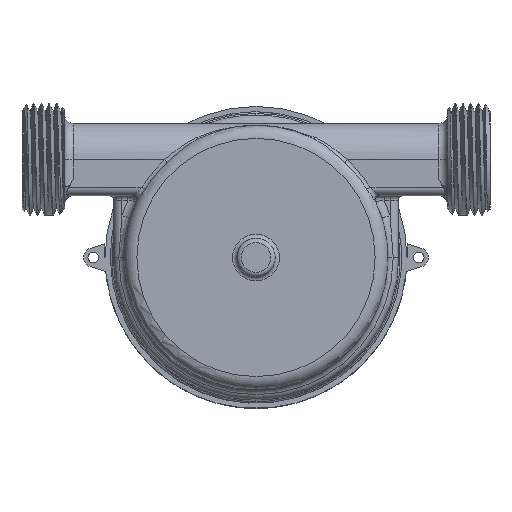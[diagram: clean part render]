
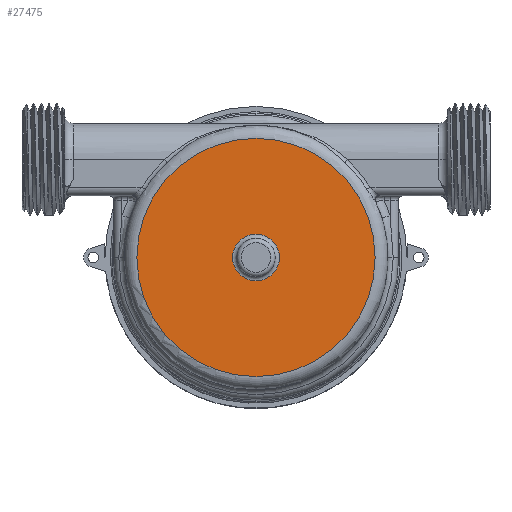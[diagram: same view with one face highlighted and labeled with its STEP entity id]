
A CAD part, front view. The second image highlights one B-rep face of the part: STEP entity #27475.
In plain terms, the highlighted planar face has unit normal (0, -1, 0).
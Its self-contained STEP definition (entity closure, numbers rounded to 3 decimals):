
#1835=FACE_BOUND('',#5739,.T.);
#2668=PLANE('',#28710);
#4057=FACE_OUTER_BOUND('',#5738,.T.);
#5738=EDGE_LOOP('',(#25372,#25373));
#5739=EDGE_LOOP('',(#25374,#25375));
#11237=CIRCLE('',#27851,28.);
#11238=CIRCLE('',#27852,28.);
#11258=CIRCLE('',#28702,5.5);
#11259=CIRCLE('',#28703,5.5);
#11622=VERTEX_POINT('',#37404);
#11623=VERTEX_POINT('',#37406);
#13891=VERTEX_POINT('',#50156);
#13892=VERTEX_POINT('',#50158);
#14358=EDGE_CURVE('',#11622,#11623,#11237,.T.);
#14359=EDGE_CURVE('',#11623,#11622,#11238,.T.);
#17759=EDGE_CURVE('',#13891,#13892,#11258,.T.);
#17760=EDGE_CURVE('',#13892,#13891,#11259,.T.);
#25372=ORIENTED_EDGE('',*,*,#14359,.F.);
#25373=ORIENTED_EDGE('',*,*,#14358,.F.);
#25374=ORIENTED_EDGE('',*,*,#17760,.F.);
#25375=ORIENTED_EDGE('',*,*,#17759,.F.);
#27475=ADVANCED_FACE('',(#4057,#1835),#2668,.F.);
#27851=AXIS2_PLACEMENT_3D('',#37407,#29478,#29479);
#27852=AXIS2_PLACEMENT_3D('',#37408,#29480,#29481);
#28702=AXIS2_PLACEMENT_3D('',#50159,#33651,#33652);
#28703=AXIS2_PLACEMENT_3D('',#50160,#33653,#33654);
#28710=AXIS2_PLACEMENT_3D('',#50172,#33668,#33669);
#29478=DIRECTION('center_axis',(0.,1.,0.));
#29479=DIRECTION('ref_axis',(1.,0.,0.));
#29480=DIRECTION('center_axis',(0.,1.,0.));
#29481=DIRECTION('ref_axis',(1.,0.,0.));
#33651=DIRECTION('center_axis',(0.,-1.,0.));
#33652=DIRECTION('ref_axis',(-1.,0.,0.));
#33653=DIRECTION('center_axis',(0.,-1.,0.));
#33654=DIRECTION('ref_axis',(-1.,0.,0.));
#33668=DIRECTION('center_axis',(0.,1.,0.));
#33669=DIRECTION('ref_axis',(0.,0.,1.));
#37404=CARTESIAN_POINT('',(0.,0.,-28.));
#37406=CARTESIAN_POINT('',(-28.,0.,0.));
#37407=CARTESIAN_POINT('Origin',(0.,0.,0.));
#37408=CARTESIAN_POINT('Origin',(0.,0.,0.));
#50156=CARTESIAN_POINT('',(0.,0.,-5.5));
#50158=CARTESIAN_POINT('',(5.5,0.,0.));
#50159=CARTESIAN_POINT('Origin',(0.,0.,0.));
#50160=CARTESIAN_POINT('Origin',(0.,0.,0.));
#50172=CARTESIAN_POINT('Origin',(0.,0.,0.));
